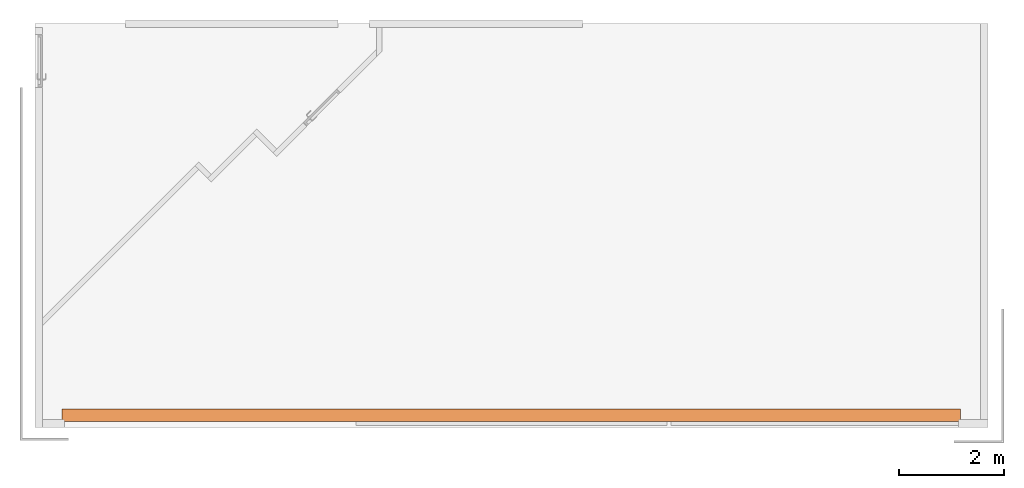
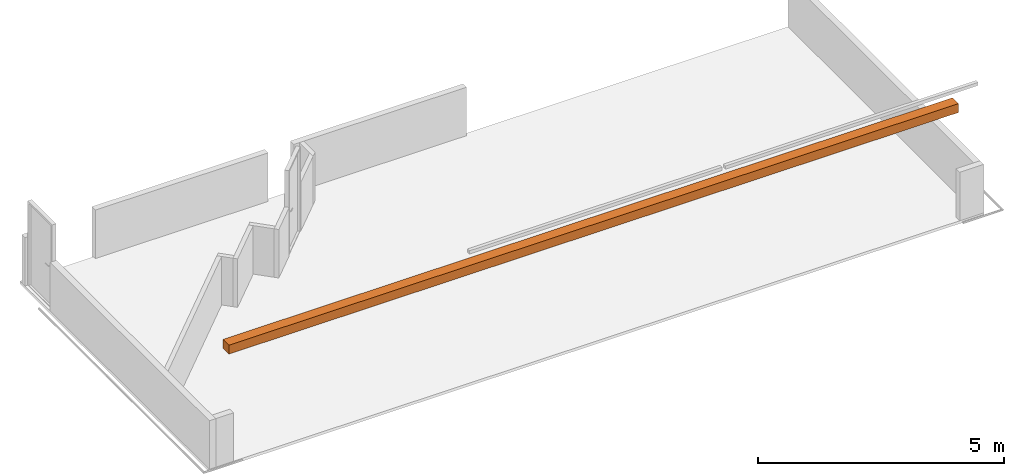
# One storey, part 3 of 3: 1 proxy.
"""IFC2X3 building model written with IfcOpenShell, lengths in millimetres."""

from ifc_helpers import new_model, entity, si_unit, converted_unit, derived_unit, direction, frame, frame_2d, origin, origin_with_axes, place, context, subcontext, project, spatial, rectangle, extrude, source, transform, mapped, material, type_object, element, save


model = new_model("IFC2X3")

# Units and contexts
model_context = context("Model", 3, precision=0.01, world=frame((0.0, 4.29681676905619e-09, 0.0)), true_north=direction((4.01073788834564e-13, 1.0)))
plan_context = context("Plan", 3, precision=0.01, world=frame((0.0, 4.29681676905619e-09, 0.0)), true_north=direction((4.01073788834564e-13, 1.0)))
body_context = subcontext(model_context, "Body", "Model", "MODEL_VIEW")
ifc_project = project(units=[converted_unit("PLANEANGLEUNIT", "DEGREE", entity("IfcPositiveLengthMeasure", 0.0174532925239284), si_unit("PLANEANGLEUNIT", "RADIAN"), dimensions=[0, 0, 0, 0, 0, 0, 0]), si_unit("AREAUNIT", "SQUARE_METRE"), si_unit("LENGTHUNIT", "METRE", prefix="MILLI"), si_unit("MASSUNIT", "GRAM", prefix="KILO"), si_unit("POWERUNIT", "WATT"), si_unit("PRESSUREUNIT", "PASCAL", prefix="KILO"), si_unit("FORCEUNIT", "NEWTON", prefix="KILO"), si_unit("ELECTRICVOLTAGEUNIT", "VOLT"), si_unit("ELECTRICCURRENTUNIT", "AMPERE"), si_unit("THERMODYNAMICTEMPERATUREUNIT", "DEGREE_CELSIUS"), si_unit("TIMEUNIT", "SECOND"), si_unit("VOLUMEUNIT", "CUBIC_METRE"), derived_unit("LINEARVELOCITYUNIT", [(si_unit("LENGTHUNIT", "METRE"), 1), (si_unit("TIMEUNIT", "SECOND"), -1)]), derived_unit("VOLUMETRICFLOWRATEUNIT", [(si_unit("VOLUMEUNIT", "CUBIC_METRE"), 1), (si_unit("TIMEUNIT", "SECOND"), -1)]), derived_unit("THERMALTRANSMITTANCEUNIT", [(si_unit("POWERUNIT", "WATT"), 1), (si_unit("THERMODYNAMICTEMPERATUREUNIT", "KELVIN"), -1), (si_unit("AREAUNIT", "SQUARE_METRE"), -1)]), derived_unit("SOUNDPRESSUREUNIT", [(si_unit("PRESSUREUNIT", "PASCAL"), 1)])], contexts=[model_context, plan_context])

# Site, building, storey
site_placement = place(None, origin_with_axes())
site = spatial("IfcSite", under=ifc_project, at=site_placement, Name="ENGM", CompositionType="ELEMENT")
building_placement = place(site_placement, origin_with_axes())
building = spatial("IfcBuilding", under=site, at=building_placement, Name="TS", CompositionType="ELEMENT")
storey_placement = place(building_placement, frame((0.0, 0.0, 204000.0), z_axis=(0.0, 0.0, 1.0), x_axis=(1.0, 0.0, 0.0)))
storey = spatial("IfcBuildingStorey", under=building, at=storey_placement, Name="Nivå D", CompositionType="ELEMENT", Elevation=204000.0)

# Proxy
ifc_material = material(Name="<Unnamed>")
building_element_proxy_type = type_object("IfcBuildingElementProxyType", Name="A234 - Gitter:A241 - Gitter 200 x 200_UK_2600", PredefinedType="NOTDEFINED", material=ifc_material)
shared_shape = source(origin(), body_context, "Body", "SweptSolid", [
    extrude(rectangle(XDim=17099.9999998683, YDim=240.000000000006, at=frame_2d((3.63797880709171e-12, 0.0), x_axis=(1.0, 0.0))), frame((8549.99999993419, 0.0, 2600.0), z_axis=(0.0, 0.0, 1.0), x_axis=(-1.0, 0.0, 0.0)), (0.0, 0.0, 1.0), 220.0),
])
proxy_placement = place(storey_placement, frame((595446.998677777, 397970.99126933, 0.0), z_axis=(0.0, 0.0, 1.0), x_axis=(1.0, 0.0, 0.0)))
element("IfcBuildingElementProxy", 1, at=proxy_placement, inside=storey, type_object=building_element_proxy_type, material=ifc_material, Name="A234 - Gitter:A241 - Gitter 200 x 200_UK_2600", ObjectType="A234 - Gitter:A241 - Gitter 200 x 200_UK_2600", context=body_context, shape_type="MappedRepresentation", body=[
    mapped(shared_shape, transform((0.0, 0.0, 0.0), scale=1.0)),
])

save(model, "model.ifc")
